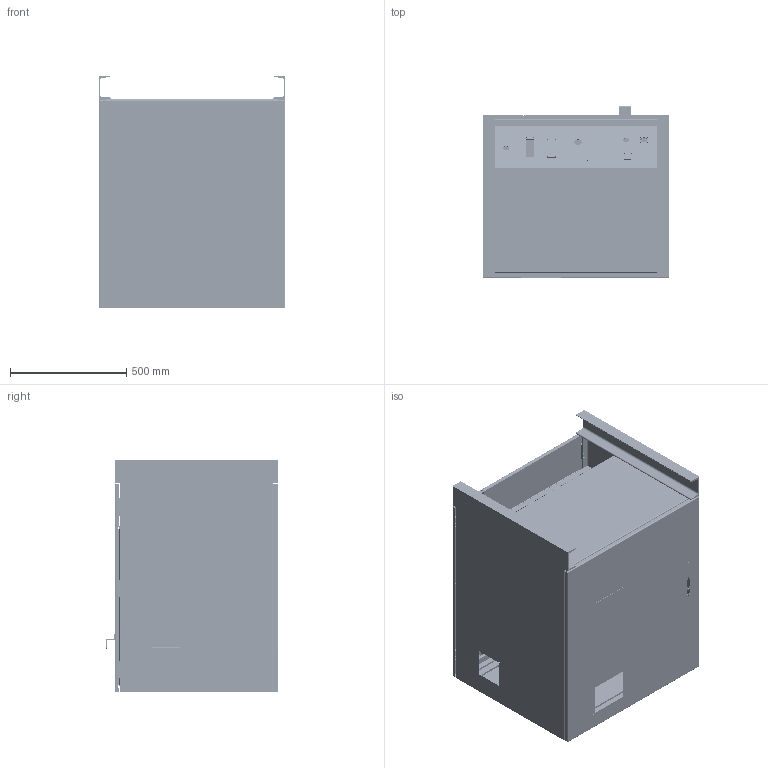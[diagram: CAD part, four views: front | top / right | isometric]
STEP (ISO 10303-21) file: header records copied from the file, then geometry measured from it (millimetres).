
FILE_DESCRIPTION (( 'STEP AP203' ), '1' );
FILE_NAME ('ER170-400V.STEP', '2020-06-15T03:00:49', ( '' ), ( '' ), 'SwSTEP 2.0', 'SolidWorks 2018', '' );
FILE_SCHEMA (( 'CONFIG_CONTROL_DESIGN' ));
Length unit declared in the file: millimetre
Products named in the file (58): 衵藷爾諉-2; 坶裝絳砃輸(Default)-1; 崨盄踐-1; CL201-2-1; 猾啣1(Default)-1; 綴藷爾諉-1; 安装板固定件左右焊接-2; 假蚾絳寢-4; 邧藷假蚾沭(Default)-1; M6X16爾諉蹟翐-1; 等藷蝶沭-1; 源奪2(Default)-1; 假蚾絳寢2(Default)-1; 假蚾絳寢-5; M6X15揤穩蹟隊-1; 假蚾絳寢-6; 机器人挂钩(Default)-1; M6X18爾諉蹟翐-1; 假蚾啣嘐隅璃奻-2(Default)-1; 酘耜啣(Default)-1; M8℅1揤穩蹟譫-1; M8X25圆柱头内六角螺柱-1; 菁啣(Default)-1; 衵藷(Default)-1; 衵耜啣(Default)-1; 酘藷(Default)-1; 后门加强筋上下(Default)-1; 后门加强筋(Default)-1; 安装板固定件左右焊接-1; 源奪1(Default)-1; 安装板固定件焊接-1; CL201-2蝓蟈粣杶-1; 源奪脣璃-1; 嶄极爾諉-1; 机器人挂钩压铆; 酘藷爾諉; 假蚾絳寢-7; 安装板固定件下焊接; 猾啣2(Default)-1; 猾啣4(Default)-1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
Assembly tree (130 placements, depth 5):
  ER170-400V
    嶄极爾諉-1
      安装板固定件焊接-1
        安装板固定件上焊接
          假蚾啣嘐隅璃奻-1(Default)-1
          假蚾啣嘐隅璃奻-2(Default)-1
          M8℅1揤穩蹟譫-1  x6
        安装板固定件下焊接
          假蚾啣嘐隅璃狟-1(Default)-1
          假蚾啣嘐隅璃狟-2(Default)-1
          M8X25圆柱头内六角螺柱-1  x6
        安装板固定件左右焊接-1
          M8℅1揤穩蹟譫-1  x4
          安装板固定件左右-1(Default)-1
          安装板固定件左右-2(Default)-1
        安装板固定件左右焊接-2
          M8℅1揤穩蹟譫-1  x4
          安装板固定件左右-1(Default)-1
          安装板固定件左右-2(Default)-1
      階裔(Default)-1
      吊环加强筋(Default)-1  x2
      衵耜啣(Default)-1
      酘耜啣(Default)-1
      菁啣(Default)-1
      羞詩菁釱-1  x2
      M6X16爾諉蹟翐-1  x3
    衵藷爾諉-2
      M6X16爾諉蹟翐-1
      衵藷(Default)-1
      藷蝶沭-1
      坶裝絳砃輸(Default)-1  x2
      源奪1(Default)-1  x2
      源奪2(Default)-1  x2
      M6X18爾諉蹟翐-1  x8
      源奪脣璃-1  x4
      邧藷假蚾沭(Default)-1
      CL201-2蝓蟈粣杶-1  x3
    酘藷爾諉
      M6X16爾諉蹟翐-1
      CL201-2蝓蟈粣杶-1  x3
      酘藷(Default)-1
      藷蝶沭2-1
      崨盄踐-1
    綴藷爾諉-1
      M6X16爾諉蹟翐-1
      坶裝絳砃輸(Default)-1  x2
      CL201-2蝓蟈粣杶-1  x3
      綴藷(Default)-1
      等藷蝶沭-1
      后门加强筋(Default)-1
      后门加强筋上下(Default)-1  x2
      后门加强筋左右(Default)-1  x2
    假蚾絳寢-4
      假蚾絳寢1(Default)-1
      假蚾絳寢2(Default)-1  x2
    假蚾絳寢-5
      假蚾絳寢1(Default)-1
      假蚾絳寢2(Default)-1  x2
    假蚾絳寢-6
      假蚾絳寢1(Default)-1
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Bounding box: 800 x 737 x 1000 mm (x, y, z)
Volume: 16104620 mm3; surface area: 13788066.9 mm2
Topology: 152 solids, 152 shells, 4868 faces, 12243 edges, 7710 vertices
Faces by surface type: cylinder 2405, plane 2217, cone 130, bspline 60, torus 52, sphere 4
Entity records: 84066 total; most frequent: CARTESIAN_POINT 15216, DIRECTION 13076, ORIENTED_EDGE 12104, EDGE_CURVE 6052, AXIS2_PLACEMENT_3D 4735, VERTEX_POINT 3825, LINE 3606, VECTOR 3606
